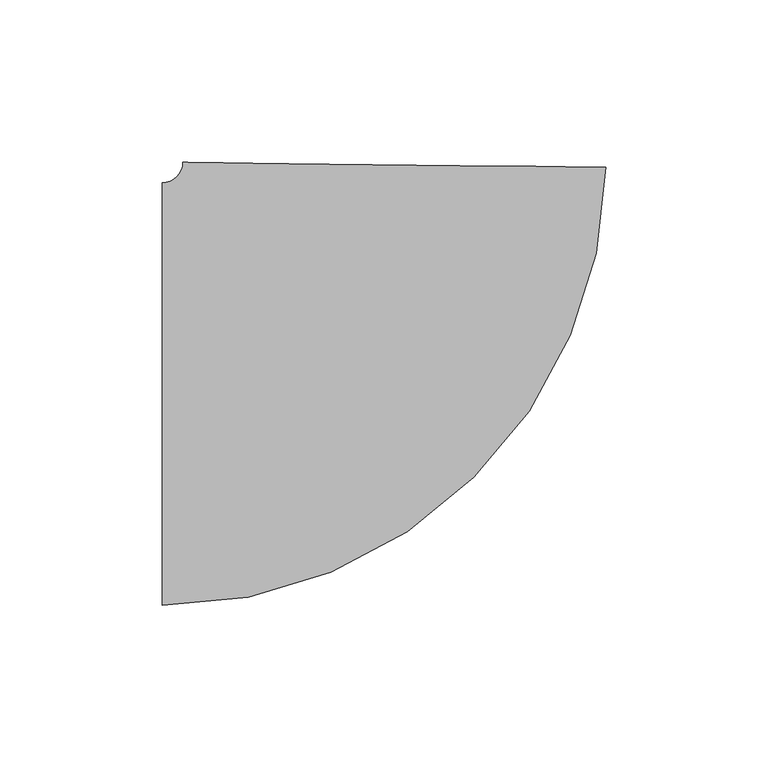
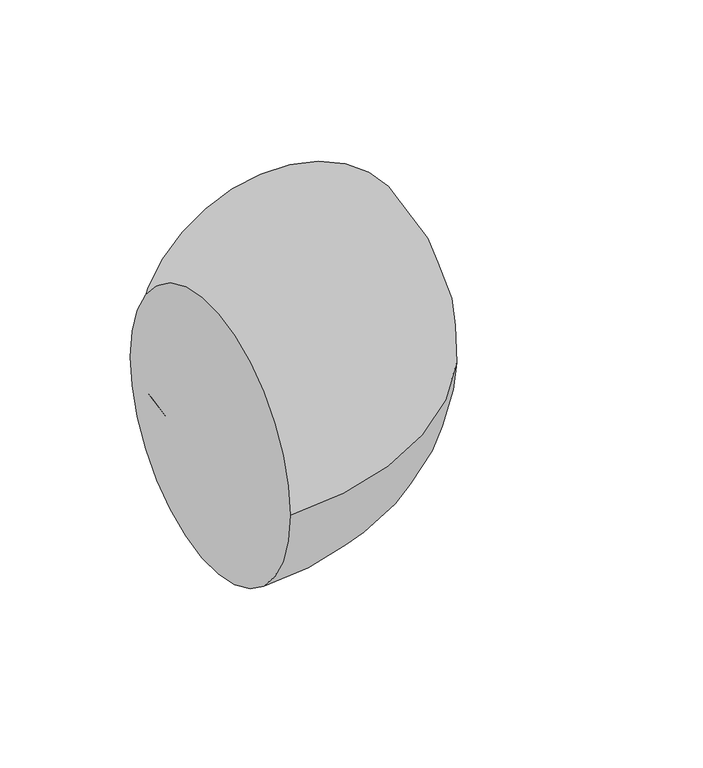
"""IFC4 building model written with IfcOpenShell, lengths in millimetres: pipe fitting geometry, M_Codo - Genérico : Estándar."""

from ifc_helpers import new_model, si_unit, point, frame, origin, place, context, project, spatial, circle_curve, ellipse_curve, trimmed, source, transform, mapped, element, save
from ifc_brep_helpers import plane_surface, revolved_surface, advanced_brep


def pipe_fitting_4fd6fdf6(model_context):
    return source(origin(), model_context, "Body", "AdvancedBrep", [
        advanced_brep(
        [(-70.6054188, -65.0875, 0.0), (-70.6054188, 65.0875, 0.0), (65.9102116, 69.8380399, 0.0), (-64.2558546, 71.3631065, 0.0)],
        [
            (0, 1, circle_curve(frame((-70.6054188, 0.0, 0.0), z_axis=(-1.0, 0.0, 0.0), x_axis=(0.0, 1.0, 0.0)), 65.0875)),
            (1, 0, circle_curve(frame((-70.6054188, 0.0, 0.0), z_axis=(-1.0, 0.0, 0.0), x_axis=(0.0, 1.0, 0.0)), 65.0875)),
            (2, 3, circle_curve(frame((0.8271785, 70.6005732, 0.0), z_axis=(0.011715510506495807, 0.9999313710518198, 0.0), x_axis=(-0.9999313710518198, 0.011715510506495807, 0.0)), 65.0875)),
            (3, 2, circle_curve(frame((0.8271785, 70.6005732, 0.0), z_axis=(0.011715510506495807, 0.9999313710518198, 0.0), x_axis=(-0.9999313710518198, 0.011715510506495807, 0.0)), 65.0875)),
            (3, 1, circle_curve(frame((-70.6054188, 71.4375, 0.0), z_axis=(0.0, 0.0, -1.0), x_axis=(0.0, -1.0, 0.0)), 6.35)),
            (0, 2, circle_curve(frame((-70.6054188, 71.4375, 0.0), z_axis=(0.0, 0.0, 1.0), x_axis=(0.0, -1.0, 0.0)), 136.525)),
        ],
        [
            plane_surface(frame((-70.6054188, 0.0, 0.0), z_axis=(-1.0, 0.0, 0.0), x_axis=(0.0, 0.0, 1.0))),
            plane_surface(frame((0.8271785, 70.6005732, 0.0), z_axis=(0.01171551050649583, 0.99993137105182, 0.0), x_axis=(0.0, 0.0, 1.0))),
            revolved_surface(trimmed(ellipse_curve(frame((-70.6054188, 0.0, 0.0), z_axis=(-1.0, 0.0, 0.0), x_axis=(0.0, 1.0, 0.0)), 65.0875, 65.0875), [point((-70.6054188, -65.0875, 0.0))], [point((-70.6054188, 65.0875, 0.0))], True, "CARTESIAN"), (-70.6054188, 71.4375, 0.0), (0.0, 0.0, 1.0)),
            revolved_surface(trimmed(ellipse_curve(frame((-70.6054188, 0.0, 0.0), z_axis=(-1.0, 0.0, 0.0), x_axis=(0.0, 1.0, 0.0)), 65.0875, 65.0875), [point((-70.6054188, 65.0875, 0.0))], [point((-70.6054188, -65.0875, 0.0))], True, "CARTESIAN"), (-70.6054188, 71.4375, 0.0), (0.0, 0.0, 1.0)),
        ],
        [
            (0, [[1, 2]]),
            (1, [[3, 4]]),
            (2, [[5, -1, 6, -4]]),
            (3, [[-6, -2, -5, -3]]),
        ],
    ),
    ])


if __name__ == "__main__":
    model = new_model("IFC4")
    model_context = context("Model", 3, world=origin())
    ifc_project = project(units=[si_unit("LENGTHUNIT", "METRE", prefix="MILLI")], contexts=[model_context])
    site = spatial("IfcSite", under=ifc_project)
    building = spatial("IfcBuilding", under=site)
    placement = place(None, origin())
    pipe_fitting_shape = pipe_fitting_4fd6fdf6(model_context)
    element("IfcPipeFitting", 1, ObjectType="M_Codo - Genérico : Estándar", at=placement, inside=building, context=model_context, shape_type="MappedRepresentation", body=[
        mapped(pipe_fitting_shape, transform((0.0, 0.0, 0.0), x_axis=(1.0, 0.0, 0.0), y_axis=(0.0, 1.0, 0.0), z_axis=(0.0, 0.0, 1.0))),
    ])
    save(model, "model.ifc")
